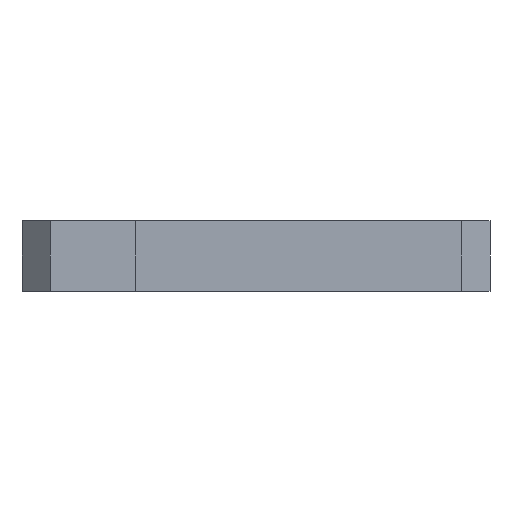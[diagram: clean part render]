
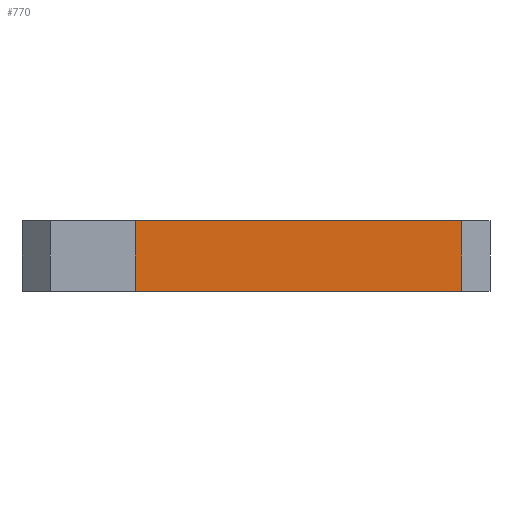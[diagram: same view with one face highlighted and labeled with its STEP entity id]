
A CAD part, left-side view. The second image highlights one B-rep face of the part: STEP entity #770.
In plain terms, the highlighted planar face has unit normal (-1, 0, 0).
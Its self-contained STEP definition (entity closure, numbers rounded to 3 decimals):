
#28 = CARTESIAN_POINT ( 'NONE',  ( -11.5, 44.284, 5. ) ) ;
#53 = CARTESIAN_POINT ( 'NONE',  ( -11.5, 44.284, 0. ) ) ;
#54 = AXIS2_PLACEMENT_3D ( 'NONE', #120, #121, #122 ) ;
#107 = VECTOR ( 'NONE', #555, 1000. ) ;
#114 = LINE ( 'NONE', #554, #107 ) ;
#118 = PLANE ( 'NONE',  #54 ) ;
#120 = CARTESIAN_POINT ( 'NONE',  ( -11.5, 16.284, 5. ) ) ;
#121 = DIRECTION ( 'NONE',  ( 1., 0., 0. ) ) ;
#122 = DIRECTION ( 'NONE',  ( 0., 0., -1. ) ) ;
#168 = VECTOR ( 'NONE', #553, 1000. ) ;
#172 = VECTOR ( 'NONE', #505, 1000. ) ;
#173 = LINE ( 'NONE', #504, #172 ) ;
#190 = LINE ( 'NONE', #552, #168 ) ;
#247 = VERTEX_POINT ( 'NONE', #28 ) ;
#269 = VERTEX_POINT ( 'NONE', #761 ) ;
#276 = VERTEX_POINT ( 'NONE', #693 ) ;
#287 = EDGE_LOOP ( 'NONE', ( #395, #448, #376, #341 ) ) ;
#298 = VERTEX_POINT ( 'NONE', #757 ) ;
#341 = ORIENTED_EDGE ( 'NONE', *, *, #751, .T. ) ;
#376 = ORIENTED_EDGE ( 'NONE', *, *, #792, .F. ) ;
#395 = ORIENTED_EDGE ( 'NONE', *, *, #803, .T. ) ;
#448 = ORIENTED_EDGE ( 'NONE', *, *, #804, .T. ) ;
#504 = CARTESIAN_POINT ( 'NONE',  ( -11.5, 16.284, 5. ) ) ;
#505 = DIRECTION ( 'NONE',  ( 0., -1., 0. ) ) ;
#525 = DIRECTION ( 'NONE',  ( 0., 0., -1. ) ) ;
#552 = CARTESIAN_POINT ( 'NONE',  ( -11.5, 16.284, 0. ) ) ;
#553 = DIRECTION ( 'NONE',  ( 0., -1., 0. ) ) ;
#554 = CARTESIAN_POINT ( 'NONE',  ( -11.5, 21.284, 5. ) ) ;
#555 = DIRECTION ( 'NONE',  ( 0., 0., 1. ) ) ;
#576 = VECTOR ( 'NONE', #525, 1000. ) ;
#607 = LINE ( 'NONE', #53, #576 ) ;
#612 = FACE_OUTER_BOUND ( 'NONE', #287, .T. ) ;
#693 = CARTESIAN_POINT ( 'NONE',  ( -11.5, 21.284, 0. ) ) ;
#751 = EDGE_CURVE ( 'NONE', #247, #298, #607, .T. ) ;
#757 = CARTESIAN_POINT ( 'NONE',  ( -11.5, 44.284, 0. ) ) ;
#761 = CARTESIAN_POINT ( 'NONE',  ( -11.5, 21.284, 5. ) ) ;
#770 = ADVANCED_FACE ( 'NONE', ( #612 ), #118, .F. ) ;
#792 = EDGE_CURVE ( 'NONE', #247, #269, #173, .T. ) ;
#803 = EDGE_CURVE ( 'NONE', #298, #276, #190, .T. ) ;
#804 = EDGE_CURVE ( 'NONE', #276, #269, #114, .T. ) ;
